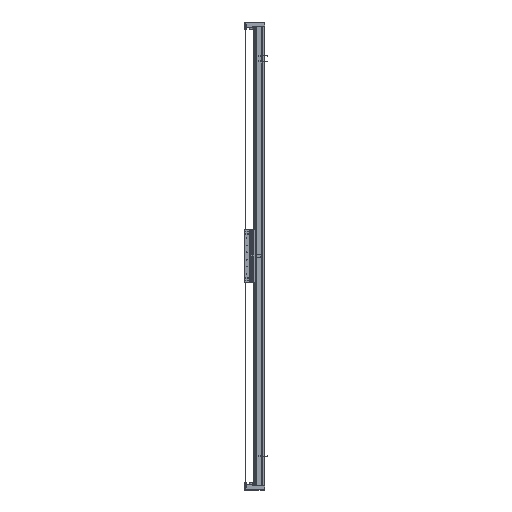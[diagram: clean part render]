
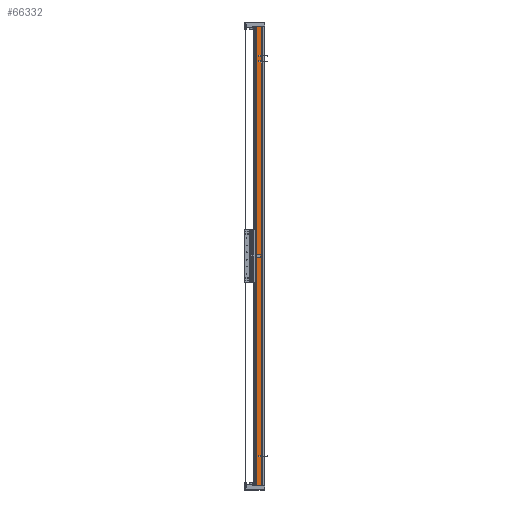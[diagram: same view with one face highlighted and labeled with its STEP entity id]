
A CAD part, left-side view. The second image highlights one B-rep face of the part: STEP entity #66332.
In plain terms, the highlighted planar face has unit normal (-1, 0, 0).
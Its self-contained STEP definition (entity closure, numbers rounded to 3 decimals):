
#1507 = VECTOR ( 'NONE', #50021, 1000. ) ;
#3769 = ORIENTED_EDGE ( 'NONE', *, *, #28589, .T. ) ;
#16299 = DIRECTION ( 'NONE',  ( 0., 1., 0. ) ) ;
#17677 = ORIENTED_EDGE ( 'NONE', *, *, #109407, .T. ) ;
#18467 = CARTESIAN_POINT ( 'NONE',  ( -82.5, 36.95, 1080. ) ) ;
#23332 = DIRECTION ( 'NONE',  ( 0., 0., -1. ) ) ;
#28589 = EDGE_CURVE ( 'NONE', #109984, #116095, #81331, .T. ) ;
#38640 = LINE ( 'NONE', #18467, #1507 ) ;
#48172 = DIRECTION ( 'NONE',  ( 0., 0., -1. ) ) ;
#49989 = CARTESIAN_POINT ( 'NONE',  ( -82.5, 36.95, -1080. ) ) ;
#50021 = DIRECTION ( 'NONE',  ( 0., -1., 0. ) ) ;
#51758 = ORIENTED_EDGE ( 'NONE', *, *, #74476, .F. ) ;
#57607 = CARTESIAN_POINT ( 'NONE',  ( -82.5, 14.45, -1080. ) ) ;
#62097 = ORIENTED_EDGE ( 'NONE', *, *, #84275, .F. ) ;
#64492 = VERTEX_POINT ( 'NONE', #103060 ) ;
#66332 = ADVANCED_FACE ( 'NONE', ( #129601 ), #119566, .F. ) ;
#71608 = AXIS2_PLACEMENT_3D ( 'NONE', #98105, #130921, #16299 ) ;
#71705 = LINE ( 'NONE', #84375, #105216 ) ;
#73720 = CARTESIAN_POINT ( 'NONE',  ( -82.5, 36.95, 1080. ) ) ;
#74476 = EDGE_CURVE ( 'NONE', #64492, #116095, #71705, .T. ) ;
#81331 = LINE ( 'NONE', #110853, #90229 ) ;
#84275 = EDGE_CURVE ( 'NONE', #102909, #64492, #38640, .T. ) ;
#84375 = CARTESIAN_POINT ( 'NONE',  ( -82.5, 14.45, 1080. ) ) ;
#90229 = VECTOR ( 'NONE', #128469, 1000. ) ;
#98105 = CARTESIAN_POINT ( 'NONE',  ( -82.5, 36.95, 1080. ) ) ;
#102909 = VERTEX_POINT ( 'NONE', #73720 ) ;
#103060 = CARTESIAN_POINT ( 'NONE',  ( -82.5, 14.45, 1080. ) ) ;
#105216 = VECTOR ( 'NONE', #23332, 1000. ) ;
#109407 = EDGE_CURVE ( 'NONE', #102909, #109984, #117202, .T. ) ;
#109984 = VERTEX_POINT ( 'NONE', #49989 ) ;
#110853 = CARTESIAN_POINT ( 'NONE',  ( -82.5, 36.95, -1080. ) ) ;
#116095 = VERTEX_POINT ( 'NONE', #57607 ) ;
#117202 = LINE ( 'NONE', #129251, #131398 ) ;
#119566 = PLANE ( 'NONE',  #71608 ) ;
#120757 = EDGE_LOOP ( 'NONE', ( #3769, #51758, #62097, #17677 ) ) ;
#128469 = DIRECTION ( 'NONE',  ( 0., -1., 0. ) ) ;
#129251 = CARTESIAN_POINT ( 'NONE',  ( -82.5, 36.95, 1080. ) ) ;
#129601 = FACE_OUTER_BOUND ( 'NONE', #120757, .T. ) ;
#130921 = DIRECTION ( 'NONE',  ( 1., 0., 0. ) ) ;
#131398 = VECTOR ( 'NONE', #48172, 1000. ) ;
